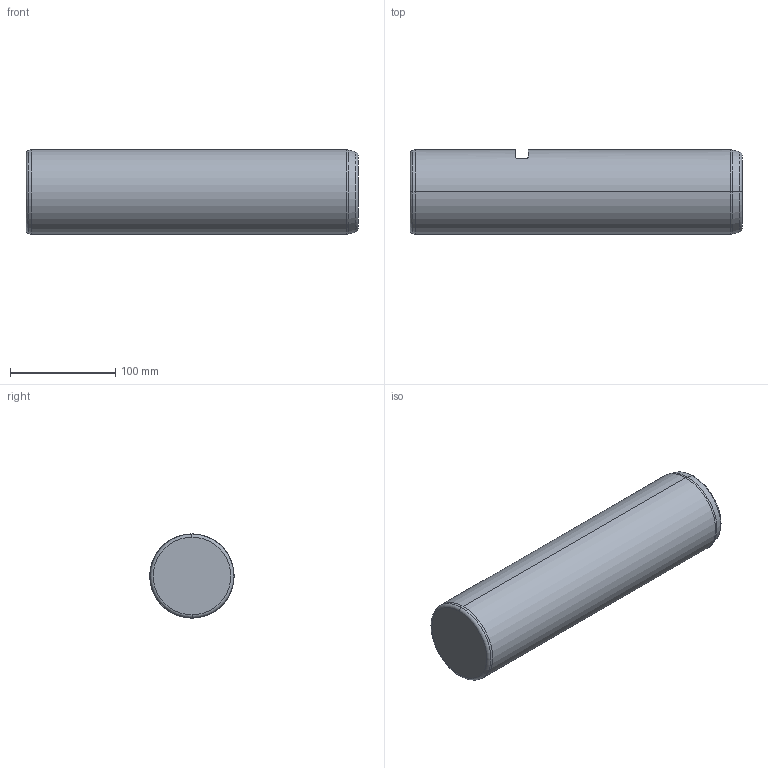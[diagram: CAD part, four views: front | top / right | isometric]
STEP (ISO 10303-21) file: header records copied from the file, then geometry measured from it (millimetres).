
FILE_DESCRIPTION (( 'STEP AP214' ), '1' );
FILE_NAME ('SP202-08-80-315.STEP', '2020-11-03T14:25:33', ( '' ), ( '' ), 'SwSTEP 2.0', 'SolidWorks 2018', '' );
FILE_SCHEMA (( 'AUTOMOTIVE_DESIGN' ));
Length unit declared in the file: millimetre
Products named in the file (1): SP202-08-80-315
Bounding box: 315 x 80 x 80 mm (x, y, z)
Volume: 1571780.1 mm3; surface area: 89733.7 mm2
Topology: 1 solids, 1 shells, 26 faces, 54 edges, 31 vertices
Faces by surface type: cylinder 8, cone 6, torus 6, plane 6
Entity records: 744 total; most frequent: CARTESIAN_POINT 150, DIRECTION 132, ORIENTED_EDGE 104, AXIS2_PLACEMENT_3D 57, EDGE_CURVE 52, VERTEX_POINT 31, CIRCLE 30, EDGE_LOOP 29
